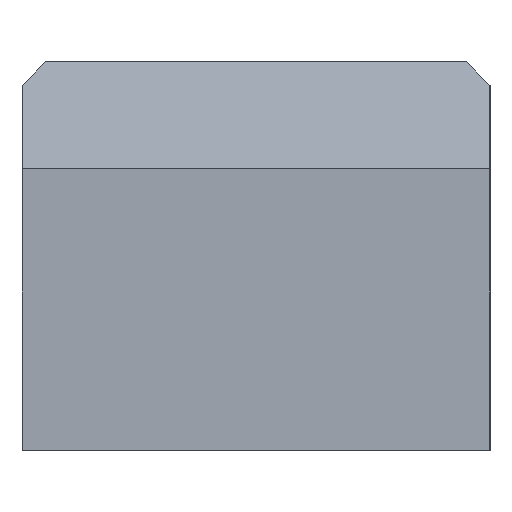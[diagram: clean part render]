
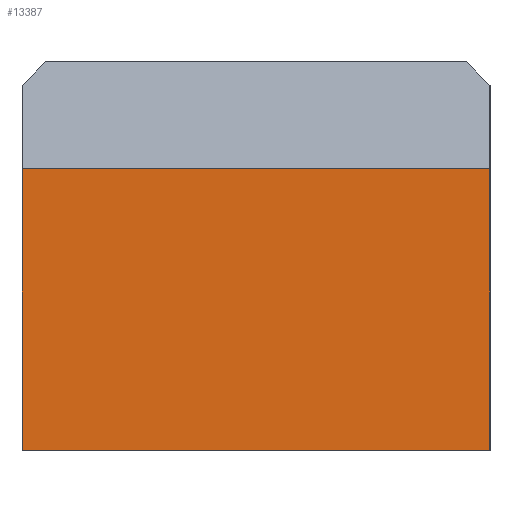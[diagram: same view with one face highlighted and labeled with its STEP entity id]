
A CAD part, left-side view. The second image highlights one B-rep face of the part: STEP entity #13387.
In plain terms, the highlighted planar face has unit normal (-1, 0, 0).
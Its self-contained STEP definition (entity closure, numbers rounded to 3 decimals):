
#351 = CARTESIAN_POINT ( 'NONE',  ( 0., 0., 33. ) ) ;
#394 = DIRECTION ( 'NONE',  ( 0., 0., -1. ) ) ;
#5902 = LINE ( 'NONE', #61266, #5955 ) ;
#5955 = VECTOR ( 'NONE', #61248, 1000. ) ;
#8953 = ORIENTED_EDGE ( 'NONE', *, *, #47458, .F. ) ;
#8962 = ORIENTED_EDGE ( 'NONE', *, *, #52878, .F. ) ;
#8968 = ORIENTED_EDGE ( 'NONE', *, *, #12615, .F. ) ;
#12615 = EDGE_CURVE ( 'NONE', #43386, #43688, #30078, .T. ) ;
#13387 = ADVANCED_FACE ( 'NONE', ( #24366 ), #18308, .F. ) ;
#15889 = CARTESIAN_POINT ( 'NONE',  ( 0., 0., 19.5 ) ) ;
#16092 = CARTESIAN_POINT ( 'NONE',  ( 0., 59., 19.5 ) ) ;
#16109 = CARTESIAN_POINT ( 'NONE',  ( 0., 0., -16. ) ) ;
#16199 = CARTESIAN_POINT ( 'NONE',  ( 0., 59., -16. ) ) ;
#17184 = DIRECTION ( 'NONE',  ( 0., 0., 1. ) ) ;
#17251 = CARTESIAN_POINT ( 'NONE',  ( 0., 59., -16. ) ) ;
#18251 = DIRECTION ( 'NONE',  ( 0., 0., -1. ) ) ;
#18308 = PLANE ( 'NONE',  #55937 ) ;
#18316 = CARTESIAN_POINT ( 'NONE',  ( 0., 0., 33. ) ) ;
#18332 = DIRECTION ( 'NONE',  ( 1., 0., 0. ) ) ;
#24366 = FACE_OUTER_BOUND ( 'NONE', #31088, .T. ) ;
#30078 = LINE ( 'NONE', #351, #30095 ) ;
#30095 = VECTOR ( 'NONE', #394, 1000. ) ;
#31088 = EDGE_LOOP ( 'NONE', ( #8953, #31463, #8962, #8968 ) ) ;
#31463 = ORIENTED_EDGE ( 'NONE', *, *, #47270, .F. ) ;
#43386 = VERTEX_POINT ( 'NONE', #15889 ) ;
#43611 = VERTEX_POINT ( 'NONE', #16092 ) ;
#43688 = VERTEX_POINT ( 'NONE', #16109 ) ;
#43740 = VERTEX_POINT ( 'NONE', #16199 ) ;
#47270 = EDGE_CURVE ( 'NONE', #43740, #43611, #48905, .T. ) ;
#47458 = EDGE_CURVE ( 'NONE', #43611, #43386, #49313, .T. ) ;
#48905 = LINE ( 'NONE', #17251, #48923 ) ;
#48923 = VECTOR ( 'NONE', #17184, 1000. ) ;
#49303 = VECTOR ( 'NONE', #51373, 1000. ) ;
#49313 = LINE ( 'NONE', #51380, #49303 ) ;
#51373 = DIRECTION ( 'NONE',  ( 0., -1., 0. ) ) ;
#51380 = CARTESIAN_POINT ( 'NONE',  ( 0., 59., 19.5 ) ) ;
#52878 = EDGE_CURVE ( 'NONE', #43688, #43740, #5902, .T. ) ;
#55937 = AXIS2_PLACEMENT_3D ( 'NONE', #18316, #18332, #18251 ) ;
#61248 = DIRECTION ( 'NONE',  ( 0., 1., 0. ) ) ;
#61266 = CARTESIAN_POINT ( 'NONE',  ( 0., 0., -16. ) ) ;
